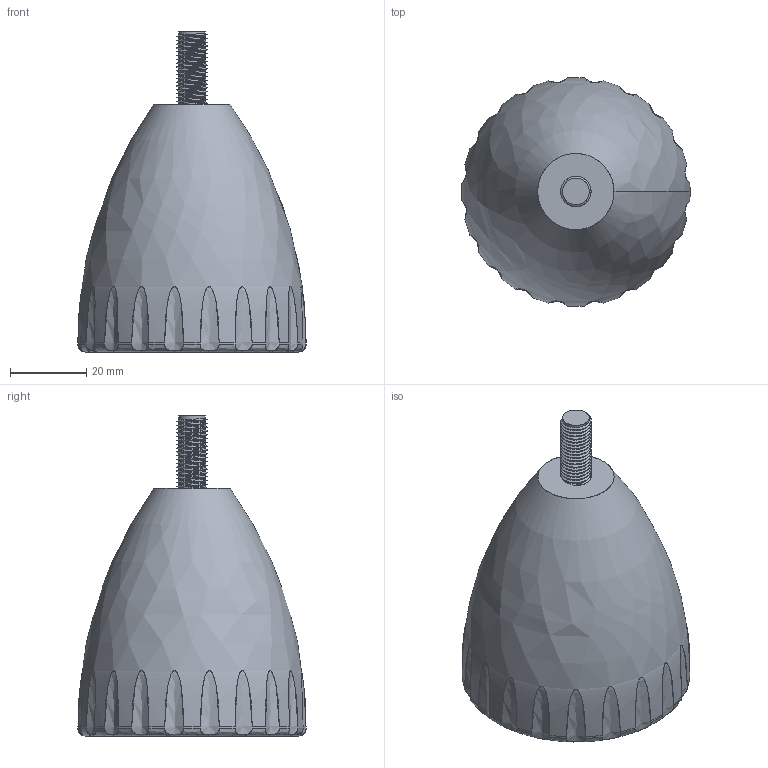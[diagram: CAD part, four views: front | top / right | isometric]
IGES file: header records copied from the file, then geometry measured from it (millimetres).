
Start section: C
Global section: file name: SA135.igs; native system: By Siemens PLM Incorporated; preprocessor: XPlus GENERIC/IGES 16.0.42; author: Author; organization: Title; date: 20231114.152557; units: millimetre
Bounding box: 59.92 x 59.84 x 83.98 mm (x, y, z)
Surface area: 29728.5 mm2 (no closed solid volume)
Topology: 0 solids, 0 shells, 114 faces, 1252 edges, 1252 vertices
Faces by surface type: bspline 114
